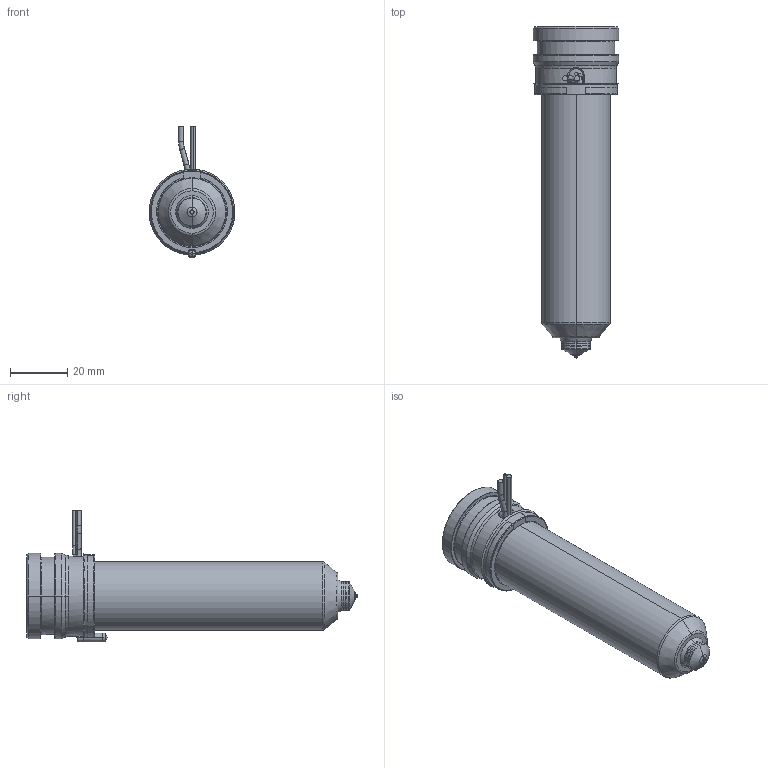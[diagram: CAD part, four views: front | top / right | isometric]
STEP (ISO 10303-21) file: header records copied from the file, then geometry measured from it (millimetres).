
FILE_DESCRIPTION((''),'2;1');
FILE_NAME('MPN-10-29-VS10-096-A','2026-02-05T12:38:40',('UPTIO'),('Thermoplay S.p.A.'),'CREO PARAMETRIC BY PTC INC, 2023494','CREO PARAMETRIC BY PTC INC, 2023494','');
FILE_SCHEMA(('CONFIG_CONTROL_DESIGN','SHAPE_APPEARANCE_LAYERS_GROUPS'));
Length unit declared in the file: millimetre
Products named in the file (1): MPN-10-29-VS10-096-A
Bounding box: 30 x 116 x 46 mm (x, y, z)
Volume: 36903.1 mm3; surface area: 36881.7 mm2
Topology: 2 solids, 3 shells, 554 faces, 1447 edges, 892 vertices
Faces by surface type: cylinder 182, plane 142, bspline 77, torus 70, cone 70, sphere 9, extrusion 4
Entity records: 28329 total; most frequent: CARTESIAN_POINT 11933, ORIENTED_EDGE 2882, DIRECTION 2681, EDGE_CURVE 1441, AXIS2_PLACEMENT_3D 1062, VERTEX_POINT 892, CIRCLE 588, EDGE_LOOP 583
